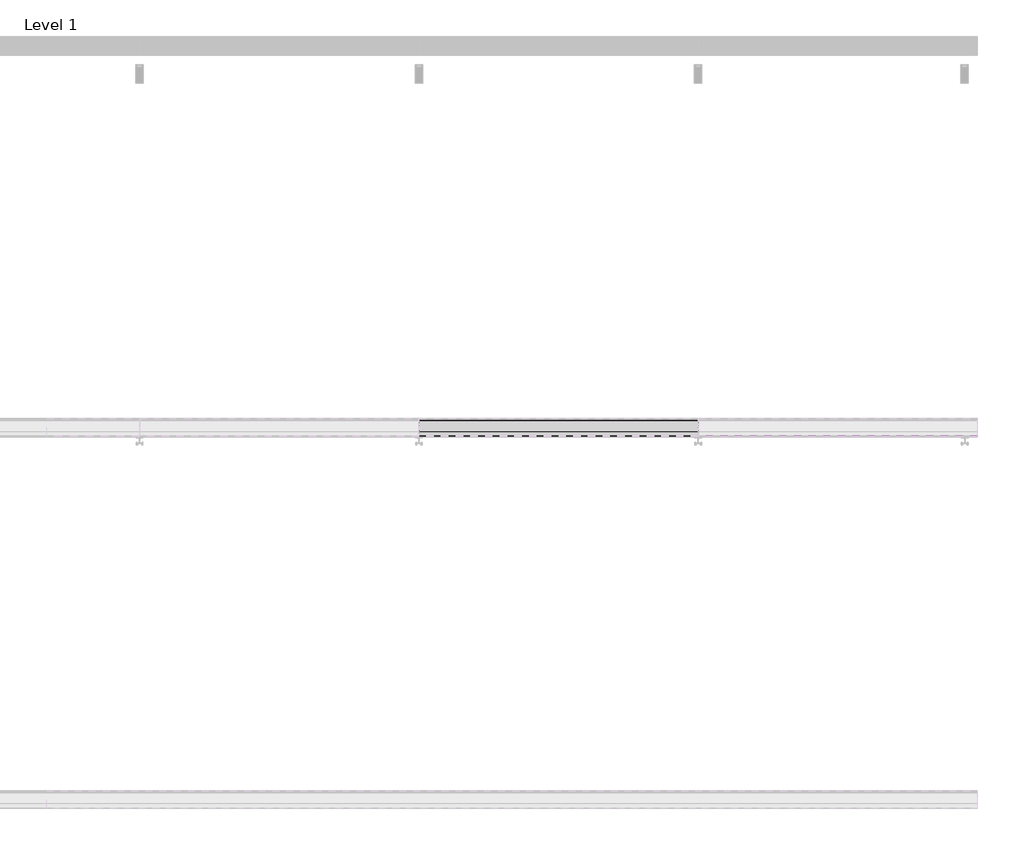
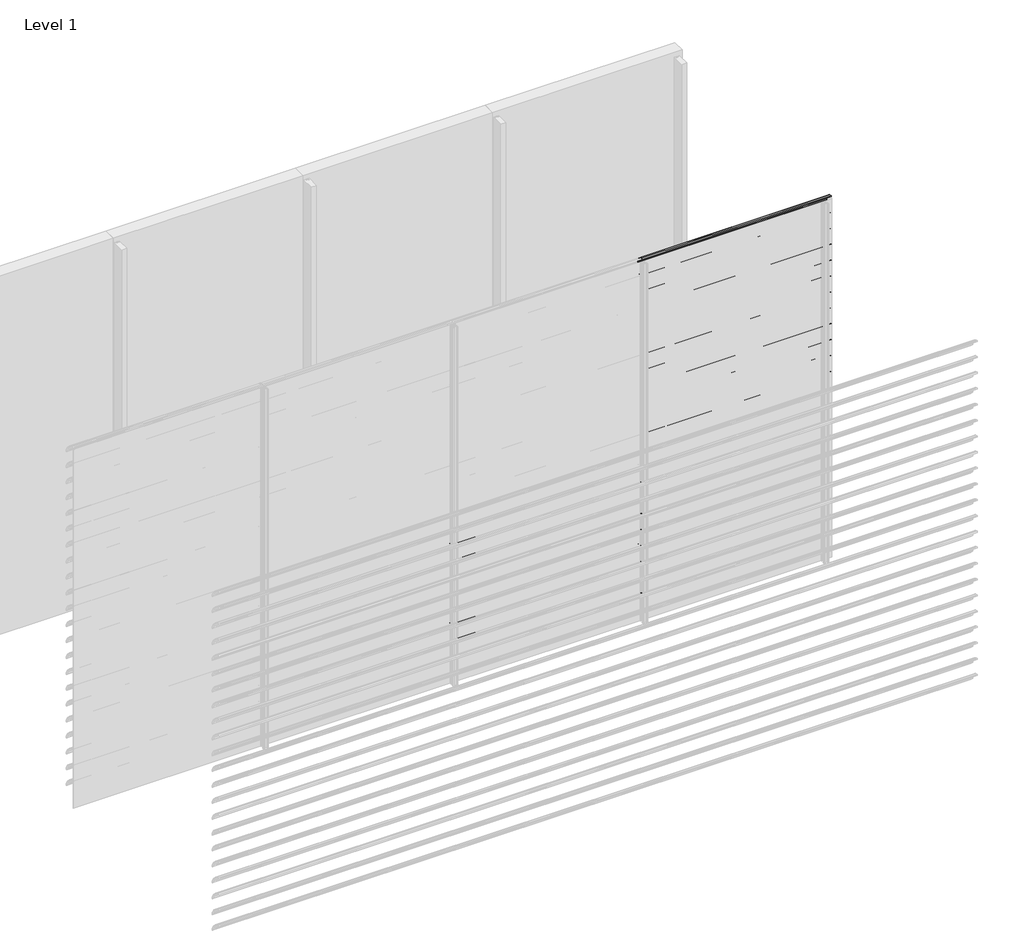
# One storey, part 18 of 57: 20 proxies.
"""IFC4 building model written with IfcOpenShell, lengths in millimetres."""

from ifc_helpers import new_model, si_unit, point, frame, frame_2d, origin, place, context, project, spatial, polyline, circle_curve, trimmed, segment, composite_curve, outline, extrude, element, save

model = new_model("IFC4")

# Units and contexts
model_context = context("Model", 3, world=origin())
ifc_project = project(units=[si_unit("LENGTHUNIT", "METRE", prefix="MILLI")], contexts=[model_context])

# Site, building, storey
site = spatial("IfcSite", under=ifc_project)
building = spatial("IfcBuilding", under=site)
storey = spatial("IfcBuildingStorey", under=building, Name="Level 1", Elevation=0.0)

# Proxies
placement = place(None, origin())
element("IfcBuildingElementProxy", 1, Name="Wall Sweeps", at=placement, inside=storey, context=model_context, shape_type="SweptSolid", body=[
    extrude(outline(composite_curve([segment(trimmed(circle_curve(frame_2d((-41993.7822526, 1154.4913792)), 4.2177474), [point((-41989.6985606, 1155.5462976))], [point((-41993.7822526, 1158.7091266))], False, "CARTESIAN"), True, "CONTINUOUS"), segment(trimmed(circle_curve(frame_2d((-42018.7150834, 1056.2536312)), 105.4456002), [point((-41993.7822526, 1158.7091266))], [point((-41971.7914298, 1150.6832099))], False, "CARTESIAN"), True, "CONTINUOUS"), segment(trimmed(circle_curve(frame_2d((-42061.7199745, 1002.0352476)), 173.7335887), [point((-41971.7914298, 1150.6832099))], [point((-41913.0720121, 1091.9637922))], False, "CARTESIAN"), True, "CONTINUOUS"), segment(trimmed(circle_curve(frame_2d((-42004.9297178, 1040.1860314)), 105.4456002), [point((-41913.0720121, 1091.9637922))], [point((-41903.6249616, 1069.4455765))], False, "CARTESIAN"), True, "CONTINUOUS"), segment(trimmed(circle_curve(frame_2d((-41907.809737, 1068.3307305)), 4.3307305), [point((-41903.6249616, 1069.4455765))], [point((-41909.0769196, 1064.189538))], False, "CARTESIAN"), True, "CONTINUOUS"), segment(polyline([(-41909.0769196, 1064.189538), (-41934.7401984, 1088.9722783)]), True, "CONTINUOUS"), segment(trimmed(circle_curve(frame_2d((-41931.3879574, 1091.2977626)), 4.079877), [point((-41934.7401984, 1088.9722783))], [point((-41930.7310597, 1095.3244091))], False, "CARTESIAN"), True, "CONTINUOUS"), segment(trimmed(circle_curve(frame_2d((-42014.6665585, 1073.2544323)), 86.7885467), [point((-41930.7310597, 1095.3244091))], [point((-41942.3028351, 1121.1683485))], True, "CARTESIAN"), True, "CONTINUOUS"), segment(polyline([(-41942.3028351, 1121.1683485), (-41940.7230099, 1123.9046861)]), True, "CONTINUOUS"), segment(trimmed(circle_curve(frame_2d((-42061.7199745, 1002.0352476)), 171.7335887), [point((-41940.7230099, 1123.9046861))], [point((-41972.7555872, 1148.9289618))], True, "CARTESIAN"), True, "CONTINUOUS"), segment(trimmed(circle_curve(frame_2d((-42018.7150834, 1056.2536312)), 103.4456002), [point((-41972.7555872, 1148.9289618))], [point((-41989.6985606, 1155.5462976))], True, "CARTESIAN"), True, "CONTINUOUS")], self_intersect=False)), frame((3000.0, 0.0, 0.0), z_axis=(1.0, 0.0, 0.0), x_axis=(0.0, 1.0, 0.0)), (0.0, 0.0, 1.0), 1500.0),
])
element("IfcBuildingElementProxy", 2, Name="Wall Sweeps", at=placement, inside=storey, context=model_context, shape_type="SweptSolid", body=[
    extrude(outline(composite_curve([segment(trimmed(circle_curve(frame_2d((-41993.7822526, 1021.4913792)), 4.2177474), [point((-41989.6985606, 1022.5462976))], [point((-41993.7822526, 1025.7091266))], False, "CARTESIAN"), True, "CONTINUOUS"), segment(trimmed(circle_curve(frame_2d((-42018.7150834, 923.2536312)), 105.4456002), [point((-41993.7822526, 1025.7091266))], [point((-41971.7914298, 1017.6832099))], False, "CARTESIAN"), True, "CONTINUOUS"), segment(trimmed(circle_curve(frame_2d((-42061.7199745, 869.0352476)), 173.7335887), [point((-41971.7914298, 1017.6832099))], [point((-41913.0720121, 958.9637922))], False, "CARTESIAN"), True, "CONTINUOUS"), segment(trimmed(circle_curve(frame_2d((-42004.9297178, 907.1860314)), 105.4456002), [point((-41913.0720121, 958.9637922))], [point((-41903.6249616, 936.4455765))], False, "CARTESIAN"), True, "CONTINUOUS"), segment(trimmed(circle_curve(frame_2d((-41907.809737, 935.3307305)), 4.3307305), [point((-41903.6249616, 936.4455765))], [point((-41909.0769196, 931.189538))], False, "CARTESIAN"), True, "CONTINUOUS"), segment(polyline([(-41909.0769196, 931.189538), (-41934.7401984, 955.9722783)]), True, "CONTINUOUS"), segment(trimmed(circle_curve(frame_2d((-41931.3879574, 958.2977626)), 4.079877), [point((-41934.7401984, 955.9722783))], [point((-41930.7310597, 962.3244091))], False, "CARTESIAN"), True, "CONTINUOUS"), segment(trimmed(circle_curve(frame_2d((-42014.6665585, 940.2544323)), 86.7885467), [point((-41930.7310597, 962.3244091))], [point((-41942.3028351, 988.1683485))], True, "CARTESIAN"), True, "CONTINUOUS"), segment(polyline([(-41942.3028351, 988.1683485), (-41940.7230099, 990.9046861)]), True, "CONTINUOUS"), segment(trimmed(circle_curve(frame_2d((-42061.7199745, 869.0352476)), 171.7335887), [point((-41940.7230099, 990.9046861))], [point((-41972.7555872, 1015.9289618))], True, "CARTESIAN"), True, "CONTINUOUS"), segment(trimmed(circle_curve(frame_2d((-42018.7150834, 923.2536312)), 103.4456002), [point((-41972.7555872, 1015.9289618))], [point((-41989.6985606, 1022.5462976))], True, "CARTESIAN"), True, "CONTINUOUS")], self_intersect=False)), frame((3000.0, 0.0, 0.0), z_axis=(1.0, 0.0, 0.0), x_axis=(0.0, 1.0, 0.0)), (0.0, 0.0, 1.0), 1500.0),
])
element("IfcBuildingElementProxy", 3, Name="Wall Sweeps", at=placement, inside=storey, context=model_context, shape_type="SweptSolid", body=[
    extrude(outline(composite_curve([segment(trimmed(circle_curve(frame_2d((-41993.7822526, 888.4913792)), 4.2177474), [point((-41989.6985606, 889.5462976))], [point((-41993.7822526, 892.7091266))], False, "CARTESIAN"), True, "CONTINUOUS"), segment(trimmed(circle_curve(frame_2d((-42018.7150834, 790.2536312)), 105.4456002), [point((-41993.7822526, 892.7091266))], [point((-41971.7914298, 884.6832099))], False, "CARTESIAN"), True, "CONTINUOUS"), segment(trimmed(circle_curve(frame_2d((-42061.7199745, 736.0352476)), 173.7335887), [point((-41971.7914298, 884.6832099))], [point((-41913.0720121, 825.9637922))], False, "CARTESIAN"), True, "CONTINUOUS"), segment(trimmed(circle_curve(frame_2d((-42004.9297178, 774.1860314)), 105.4456002), [point((-41913.0720121, 825.9637922))], [point((-41903.6249616, 803.4455765))], False, "CARTESIAN"), True, "CONTINUOUS"), segment(trimmed(circle_curve(frame_2d((-41907.809737, 802.3307305)), 4.3307305), [point((-41903.6249616, 803.4455765))], [point((-41909.0769196, 798.189538))], False, "CARTESIAN"), True, "CONTINUOUS"), segment(polyline([(-41909.0769196, 798.189538), (-41934.7401984, 822.9722783)]), True, "CONTINUOUS"), segment(trimmed(circle_curve(frame_2d((-41931.3879574, 825.2977626)), 4.079877), [point((-41934.7401984, 822.9722783))], [point((-41930.7310597, 829.3244091))], False, "CARTESIAN"), True, "CONTINUOUS"), segment(trimmed(circle_curve(frame_2d((-42014.6665585, 807.2544323)), 86.7885467), [point((-41930.7310597, 829.3244091))], [point((-41942.3028351, 855.1683485))], True, "CARTESIAN"), True, "CONTINUOUS"), segment(polyline([(-41942.3028351, 855.1683485), (-41940.7230099, 857.9046861)]), True, "CONTINUOUS"), segment(trimmed(circle_curve(frame_2d((-42061.7199745, 736.0352476)), 171.7335887), [point((-41940.7230099, 857.9046861))], [point((-41972.7555872, 882.9289618))], True, "CARTESIAN"), True, "CONTINUOUS"), segment(trimmed(circle_curve(frame_2d((-42018.7150834, 790.2536312)), 103.4456002), [point((-41972.7555872, 882.9289618))], [point((-41989.6985606, 889.5462976))], True, "CARTESIAN"), True, "CONTINUOUS")], self_intersect=False)), frame((3000.0, 0.0, 0.0), z_axis=(1.0, 0.0, 0.0), x_axis=(0.0, 1.0, 0.0)), (0.0, 0.0, 1.0), 1500.0),
])
element("IfcBuildingElementProxy", 4, Name="Wall Sweeps", at=placement, inside=storey, context=model_context, shape_type="SweptSolid", body=[
    extrude(outline(composite_curve([segment(trimmed(circle_curve(frame_2d((-41993.7822526, 755.4913792)), 4.2177474), [point((-41989.6985606, 756.5462976))], [point((-41993.7822526, 759.7091266))], False, "CARTESIAN"), True, "CONTINUOUS"), segment(trimmed(circle_curve(frame_2d((-42018.7150834, 657.2536312)), 105.4456002), [point((-41993.7822526, 759.7091266))], [point((-41971.7914298, 751.6832099))], False, "CARTESIAN"), True, "CONTINUOUS"), segment(trimmed(circle_curve(frame_2d((-42061.7199745, 603.0352476)), 173.7335887), [point((-41971.7914298, 751.6832099))], [point((-41913.0720121, 692.9637922))], False, "CARTESIAN"), True, "CONTINUOUS"), segment(trimmed(circle_curve(frame_2d((-42004.9297178, 641.1860314)), 105.4456002), [point((-41913.0720121, 692.9637922))], [point((-41903.6249616, 670.4455765))], False, "CARTESIAN"), True, "CONTINUOUS"), segment(trimmed(circle_curve(frame_2d((-41907.809737, 669.3307305)), 4.3307305), [point((-41903.6249616, 670.4455765))], [point((-41909.0769196, 665.189538))], False, "CARTESIAN"), True, "CONTINUOUS"), segment(polyline([(-41909.0769196, 665.189538), (-41934.7401984, 689.9722783)]), True, "CONTINUOUS"), segment(trimmed(circle_curve(frame_2d((-41931.3879574, 692.2977626)), 4.079877), [point((-41934.7401984, 689.9722783))], [point((-41930.7310597, 696.3244091))], False, "CARTESIAN"), True, "CONTINUOUS"), segment(trimmed(circle_curve(frame_2d((-42014.6665585, 674.2544323)), 86.7885467), [point((-41930.7310597, 696.3244091))], [point((-41942.3028351, 722.1683485))], True, "CARTESIAN"), True, "CONTINUOUS"), segment(polyline([(-41942.3028351, 722.1683485), (-41940.7230099, 724.9046861)]), True, "CONTINUOUS"), segment(trimmed(circle_curve(frame_2d((-42061.7199745, 603.0352476)), 171.7335887), [point((-41940.7230099, 724.9046861))], [point((-41972.7555872, 749.9289618))], True, "CARTESIAN"), True, "CONTINUOUS"), segment(trimmed(circle_curve(frame_2d((-42018.7150834, 657.2536312)), 103.4456002), [point((-41972.7555872, 749.9289618))], [point((-41989.6985606, 756.5462976))], True, "CARTESIAN"), True, "CONTINUOUS")], self_intersect=False)), frame((3000.0, 0.0, 0.0), z_axis=(1.0, 0.0, 0.0), x_axis=(0.0, 1.0, 0.0)), (0.0, 0.0, 1.0), 1500.0),
])
element("IfcBuildingElementProxy", 5, Name="Wall Sweeps", at=placement, inside=storey, context=model_context, shape_type="SweptSolid", body=[
    extrude(outline(composite_curve([segment(trimmed(circle_curve(frame_2d((-41993.7822526, 622.4913792)), 4.2177474), [point((-41989.6985606, 623.5462976))], [point((-41993.7822526, 626.7091266))], False, "CARTESIAN"), True, "CONTINUOUS"), segment(trimmed(circle_curve(frame_2d((-42018.7150834, 524.2536312)), 105.4456002), [point((-41993.7822526, 626.7091266))], [point((-41971.7914298, 618.6832099))], False, "CARTESIAN"), True, "CONTINUOUS"), segment(trimmed(circle_curve(frame_2d((-42061.7199745, 470.0352476)), 173.7335887), [point((-41971.7914298, 618.6832099))], [point((-41913.0720121, 559.9637922))], False, "CARTESIAN"), True, "CONTINUOUS"), segment(trimmed(circle_curve(frame_2d((-42004.9297178, 508.1860314)), 105.4456002), [point((-41913.0720121, 559.9637922))], [point((-41903.6249616, 537.4455765))], False, "CARTESIAN"), True, "CONTINUOUS"), segment(trimmed(circle_curve(frame_2d((-41907.809737, 536.3307305)), 4.3307305), [point((-41903.6249616, 537.4455765))], [point((-41909.0769196, 532.189538))], False, "CARTESIAN"), True, "CONTINUOUS"), segment(polyline([(-41909.0769196, 532.189538), (-41934.7401984, 556.9722783)]), True, "CONTINUOUS"), segment(trimmed(circle_curve(frame_2d((-41931.3879574, 559.2977626)), 4.079877), [point((-41934.7401984, 556.9722783))], [point((-41930.7310597, 563.3244091))], False, "CARTESIAN"), True, "CONTINUOUS"), segment(trimmed(circle_curve(frame_2d((-42014.6665585, 541.2544323)), 86.7885467), [point((-41930.7310597, 563.3244091))], [point((-41942.3028351, 589.1683485))], True, "CARTESIAN"), True, "CONTINUOUS"), segment(polyline([(-41942.3028351, 589.1683485), (-41940.7230099, 591.9046861)]), True, "CONTINUOUS"), segment(trimmed(circle_curve(frame_2d((-42061.7199745, 470.0352476)), 171.7335887), [point((-41940.7230099, 591.9046861))], [point((-41972.7555872, 616.9289618))], True, "CARTESIAN"), True, "CONTINUOUS"), segment(trimmed(circle_curve(frame_2d((-42018.7150834, 524.2536312)), 103.4456002), [point((-41972.7555872, 616.9289618))], [point((-41989.6985606, 623.5462976))], True, "CARTESIAN"), True, "CONTINUOUS")], self_intersect=False)), frame((3000.0, 0.0, 0.0), z_axis=(1.0, 0.0, 0.0), x_axis=(0.0, 1.0, 0.0)), (0.0, 0.0, 1.0), 1500.0),
])
element("IfcBuildingElementProxy", 6, Name="Wall Sweeps", at=placement, inside=storey, context=model_context, shape_type="SweptSolid", body=[
    extrude(outline(composite_curve([segment(trimmed(circle_curve(frame_2d((-41993.7822526, 489.4913792)), 4.2177474), [point((-41989.6985606, 490.5462976))], [point((-41993.7822526, 493.7091266))], False, "CARTESIAN"), True, "CONTINUOUS"), segment(trimmed(circle_curve(frame_2d((-42018.7150834, 391.2536312)), 105.4456002), [point((-41993.7822526, 493.7091266))], [point((-41971.7914298, 485.6832099))], False, "CARTESIAN"), True, "CONTINUOUS"), segment(trimmed(circle_curve(frame_2d((-42061.7199745, 337.0352476)), 173.7335887), [point((-41971.7914298, 485.6832099))], [point((-41913.0720121, 426.9637922))], False, "CARTESIAN"), True, "CONTINUOUS"), segment(trimmed(circle_curve(frame_2d((-42004.9297178, 375.1860314)), 105.4456002), [point((-41913.0720121, 426.9637922))], [point((-41903.6249616, 404.4455765))], False, "CARTESIAN"), True, "CONTINUOUS"), segment(trimmed(circle_curve(frame_2d((-41907.809737, 403.3307305)), 4.3307305), [point((-41903.6249616, 404.4455765))], [point((-41909.0769196, 399.189538))], False, "CARTESIAN"), True, "CONTINUOUS"), segment(polyline([(-41909.0769196, 399.189538), (-41934.7401984, 423.9722783)]), True, "CONTINUOUS"), segment(trimmed(circle_curve(frame_2d((-41931.3879574, 426.2977626)), 4.079877), [point((-41934.7401984, 423.9722783))], [point((-41930.7310597, 430.3244091))], False, "CARTESIAN"), True, "CONTINUOUS"), segment(trimmed(circle_curve(frame_2d((-42014.6665585, 408.2544323)), 86.7885467), [point((-41930.7310597, 430.3244091))], [point((-41942.3028351, 456.1683485))], True, "CARTESIAN"), True, "CONTINUOUS"), segment(polyline([(-41942.3028351, 456.1683485), (-41940.7230099, 458.9046861)]), True, "CONTINUOUS"), segment(trimmed(circle_curve(frame_2d((-42061.7199745, 337.0352476)), 171.7335887), [point((-41940.7230099, 458.9046861))], [point((-41972.7555872, 483.9289618))], True, "CARTESIAN"), True, "CONTINUOUS"), segment(trimmed(circle_curve(frame_2d((-42018.7150834, 391.2536312)), 103.4456002), [point((-41972.7555872, 483.9289618))], [point((-41989.6985606, 490.5462976))], True, "CARTESIAN"), True, "CONTINUOUS")], self_intersect=False)), frame((3000.0, 0.0, 0.0), z_axis=(1.0, 0.0, 0.0), x_axis=(0.0, 1.0, 0.0)), (0.0, 0.0, 1.0), 1500.0),
])
element("IfcBuildingElementProxy", 7, Name="Wall Sweeps", at=placement, inside=storey, context=model_context, shape_type="SweptSolid", body=[
    extrude(outline(composite_curve([segment(trimmed(circle_curve(frame_2d((-41993.7822526, 356.4913792)), 4.2177474), [point((-41989.6985606, 357.5462976))], [point((-41993.7822526, 360.7091266))], False, "CARTESIAN"), True, "CONTINUOUS"), segment(trimmed(circle_curve(frame_2d((-42018.7150834, 258.2536312)), 105.4456002), [point((-41993.7822526, 360.7091266))], [point((-41971.7914298, 352.6832099))], False, "CARTESIAN"), True, "CONTINUOUS"), segment(trimmed(circle_curve(frame_2d((-42061.7199745, 204.0352476)), 173.7335887), [point((-41971.7914298, 352.6832099))], [point((-41913.0720121, 293.9637922))], False, "CARTESIAN"), True, "CONTINUOUS"), segment(trimmed(circle_curve(frame_2d((-42004.9297178, 242.1860314)), 105.4456002), [point((-41913.0720121, 293.9637922))], [point((-41903.6249616, 271.4455765))], False, "CARTESIAN"), True, "CONTINUOUS"), segment(trimmed(circle_curve(frame_2d((-41907.809737, 270.3307305)), 4.3307305), [point((-41903.6249616, 271.4455765))], [point((-41909.0769196, 266.189538))], False, "CARTESIAN"), True, "CONTINUOUS"), segment(polyline([(-41909.0769196, 266.189538), (-41934.7401984, 290.9722783)]), True, "CONTINUOUS"), segment(trimmed(circle_curve(frame_2d((-41931.3879574, 293.2977626)), 4.079877), [point((-41934.7401984, 290.9722783))], [point((-41930.7310597, 297.3244091))], False, "CARTESIAN"), True, "CONTINUOUS"), segment(trimmed(circle_curve(frame_2d((-42014.6665585, 275.2544323)), 86.7885467), [point((-41930.7310597, 297.3244091))], [point((-41942.3028351, 323.1683485))], True, "CARTESIAN"), True, "CONTINUOUS"), segment(polyline([(-41942.3028351, 323.1683485), (-41940.7230099, 325.9046861)]), True, "CONTINUOUS"), segment(trimmed(circle_curve(frame_2d((-42061.7199745, 204.0352476)), 171.7335887), [point((-41940.7230099, 325.9046861))], [point((-41972.7555872, 350.9289618))], True, "CARTESIAN"), True, "CONTINUOUS"), segment(trimmed(circle_curve(frame_2d((-42018.7150834, 258.2536312)), 103.4456002), [point((-41972.7555872, 350.9289618))], [point((-41989.6985606, 357.5462976))], True, "CARTESIAN"), True, "CONTINUOUS")], self_intersect=False)), frame((3000.0, 0.0, 0.0), z_axis=(1.0, 0.0, 0.0), x_axis=(0.0, 1.0, 0.0)), (0.0, 0.0, 1.0), 1500.0),
])
element("IfcBuildingElementProxy", 8, Name="Wall Sweeps", at=placement, inside=storey, context=model_context, shape_type="SweptSolid", body=[
    extrude(outline(composite_curve([segment(trimmed(circle_curve(frame_2d((-41993.7822526, 223.4913792)), 4.2177474), [point((-41989.6985606, 224.5462976))], [point((-41993.7822526, 227.7091266))], False, "CARTESIAN"), True, "CONTINUOUS"), segment(trimmed(circle_curve(frame_2d((-42018.7150834, 125.2536312)), 105.4456002), [point((-41993.7822526, 227.7091266))], [point((-41971.7914298, 219.6832099))], False, "CARTESIAN"), True, "CONTINUOUS"), segment(trimmed(circle_curve(frame_2d((-42061.7199745, 71.0352476)), 173.7335887), [point((-41971.7914298, 219.6832099))], [point((-41913.0720121, 160.9637922))], False, "CARTESIAN"), True, "CONTINUOUS"), segment(trimmed(circle_curve(frame_2d((-42004.9297178, 109.1860314)), 105.4456002), [point((-41913.0720121, 160.9637922))], [point((-41903.6249616, 138.4455765))], False, "CARTESIAN"), True, "CONTINUOUS"), segment(trimmed(circle_curve(frame_2d((-41907.809737, 137.3307305)), 4.3307305), [point((-41903.6249616, 138.4455765))], [point((-41909.0769196, 133.189538))], False, "CARTESIAN"), True, "CONTINUOUS"), segment(polyline([(-41909.0769196, 133.189538), (-41934.7401984, 157.9722783)]), True, "CONTINUOUS"), segment(trimmed(circle_curve(frame_2d((-41931.3879574, 160.2977626)), 4.079877), [point((-41934.7401984, 157.9722783))], [point((-41930.7310597, 164.3244091))], False, "CARTESIAN"), True, "CONTINUOUS"), segment(trimmed(circle_curve(frame_2d((-42014.6665585, 142.2544323)), 86.7885467), [point((-41930.7310597, 164.3244091))], [point((-41942.3028351, 190.1683485))], True, "CARTESIAN"), True, "CONTINUOUS"), segment(polyline([(-41942.3028351, 190.1683485), (-41940.7230099, 192.9046861)]), True, "CONTINUOUS"), segment(trimmed(circle_curve(frame_2d((-42061.7199745, 71.0352476)), 171.7335887), [point((-41940.7230099, 192.9046861))], [point((-41972.7555872, 217.9289618))], True, "CARTESIAN"), True, "CONTINUOUS"), segment(trimmed(circle_curve(frame_2d((-42018.7150834, 125.2536312)), 103.4456002), [point((-41972.7555872, 217.9289618))], [point((-41989.6985606, 224.5462976))], True, "CARTESIAN"), True, "CONTINUOUS")], self_intersect=False)), frame((3000.0, 0.0, 0.0), z_axis=(1.0, 0.0, 0.0), x_axis=(0.0, 1.0, 0.0)), (0.0, 0.0, 1.0), 1500.0),
])
element("IfcBuildingElementProxy", 9, Name="Wall Sweeps", at=placement, inside=storey, context=model_context, shape_type="SweptSolid", body=[
    extrude(outline(composite_curve([segment(trimmed(circle_curve(frame_2d((-41993.7822526, 3016.4913792)), 4.2177474), [point((-41989.6985606, 3017.5462976))], [point((-41993.7822526, 3020.7091266))], False, "CARTESIAN"), True, "CONTINUOUS"), segment(trimmed(circle_curve(frame_2d((-42018.7150834, 2918.2536312)), 105.4456002), [point((-41993.7822526, 3020.7091266))], [point((-41971.7914298, 3012.6832099))], False, "CARTESIAN"), True, "CONTINUOUS"), segment(trimmed(circle_curve(frame_2d((-42061.7199745, 2864.0352476)), 173.7335887), [point((-41971.7914298, 3012.6832099))], [point((-41913.0720121, 2953.9637922))], False, "CARTESIAN"), True, "CONTINUOUS"), segment(trimmed(circle_curve(frame_2d((-42004.9297178, 2902.1860314)), 105.4456002), [point((-41913.0720121, 2953.9637922))], [point((-41903.6249616, 2931.4455765))], False, "CARTESIAN"), True, "CONTINUOUS"), segment(trimmed(circle_curve(frame_2d((-41907.809737, 2930.3307305)), 4.3307305), [point((-41903.6249616, 2931.4455765))], [point((-41909.0769196, 2926.189538))], False, "CARTESIAN"), True, "CONTINUOUS"), segment(polyline([(-41909.0769196, 2926.189538), (-41934.7401984, 2950.9722783)]), True, "CONTINUOUS"), segment(trimmed(circle_curve(frame_2d((-41931.3879574, 2953.2977626)), 4.079877), [point((-41934.7401984, 2950.9722783))], [point((-41930.7310597, 2957.3244091))], False, "CARTESIAN"), True, "CONTINUOUS"), segment(trimmed(circle_curve(frame_2d((-42014.6665585, 2935.2544323)), 86.7885467), [point((-41930.7310597, 2957.3244091))], [point((-41942.3028351, 2983.1683485))], True, "CARTESIAN"), True, "CONTINUOUS"), segment(polyline([(-41942.3028351, 2983.1683485), (-41940.7230099, 2985.9046861)]), True, "CONTINUOUS"), segment(trimmed(circle_curve(frame_2d((-42061.7199745, 2864.0352476)), 171.7335887), [point((-41940.7230099, 2985.9046861))], [point((-41972.7555872, 3010.9289618))], True, "CARTESIAN"), True, "CONTINUOUS"), segment(trimmed(circle_curve(frame_2d((-42018.7150834, 2918.2536312)), 103.4456002), [point((-41972.7555872, 3010.9289618))], [point((-41989.6985606, 3017.5462976))], True, "CARTESIAN"), True, "CONTINUOUS")], self_intersect=False)), frame((4500.0, 0.0, 0.0), z_axis=(1.0, 0.0, 0.0), x_axis=(0.0, 1.0, 0.0)), (0.0, 0.0, 1.0), 1500.0),
])
element("IfcBuildingElementProxy", 10, Name="Wall Sweeps", at=placement, inside=storey, context=model_context, shape_type="SweptSolid", body=[
    extrude(outline(composite_curve([segment(trimmed(circle_curve(frame_2d((-41993.7822526, 2883.4913792)), 4.2177474), [point((-41989.6985606, 2884.5462976))], [point((-41993.7822526, 2887.7091266))], False, "CARTESIAN"), True, "CONTINUOUS"), segment(trimmed(circle_curve(frame_2d((-42018.7150834, 2785.2536312)), 105.4456002), [point((-41993.7822526, 2887.7091266))], [point((-41971.7914298, 2879.6832099))], False, "CARTESIAN"), True, "CONTINUOUS"), segment(trimmed(circle_curve(frame_2d((-42061.7199745, 2731.0352476)), 173.7335887), [point((-41971.7914298, 2879.6832099))], [point((-41913.0720121, 2820.9637922))], False, "CARTESIAN"), True, "CONTINUOUS"), segment(trimmed(circle_curve(frame_2d((-42004.9297178, 2769.1860314)), 105.4456002), [point((-41913.0720121, 2820.9637922))], [point((-41903.6249616, 2798.4455765))], False, "CARTESIAN"), True, "CONTINUOUS"), segment(trimmed(circle_curve(frame_2d((-41907.809737, 2797.3307305)), 4.3307305), [point((-41903.6249616, 2798.4455765))], [point((-41909.0769196, 2793.189538))], False, "CARTESIAN"), True, "CONTINUOUS"), segment(polyline([(-41909.0769196, 2793.189538), (-41934.7401984, 2817.9722783)]), True, "CONTINUOUS"), segment(trimmed(circle_curve(frame_2d((-41931.3879574, 2820.2977626)), 4.079877), [point((-41934.7401984, 2817.9722783))], [point((-41930.7310597, 2824.3244091))], False, "CARTESIAN"), True, "CONTINUOUS"), segment(trimmed(circle_curve(frame_2d((-42014.6665585, 2802.2544323)), 86.7885467), [point((-41930.7310597, 2824.3244091))], [point((-41942.3028351, 2850.1683485))], True, "CARTESIAN"), True, "CONTINUOUS"), segment(polyline([(-41942.3028351, 2850.1683485), (-41940.7230099, 2852.9046861)]), True, "CONTINUOUS"), segment(trimmed(circle_curve(frame_2d((-42061.7199745, 2731.0352476)), 171.7335887), [point((-41940.7230099, 2852.9046861))], [point((-41972.7555872, 2877.9289618))], True, "CARTESIAN"), True, "CONTINUOUS"), segment(trimmed(circle_curve(frame_2d((-42018.7150834, 2785.2536312)), 103.4456002), [point((-41972.7555872, 2877.9289618))], [point((-41989.6985606, 2884.5462976))], True, "CARTESIAN"), True, "CONTINUOUS")], self_intersect=False)), frame((4500.0, 0.0, 0.0), z_axis=(1.0, 0.0, 0.0), x_axis=(0.0, 1.0, 0.0)), (0.0, 0.0, 1.0), 1500.0),
])
element("IfcBuildingElementProxy", 11, Name="Wall Sweeps", at=placement, inside=storey, context=model_context, shape_type="SweptSolid", body=[
    extrude(outline(composite_curve([segment(trimmed(circle_curve(frame_2d((-41993.7822526, 2750.4913792)), 4.2177474), [point((-41989.6985606, 2751.5462976))], [point((-41993.7822526, 2754.7091266))], False, "CARTESIAN"), True, "CONTINUOUS"), segment(trimmed(circle_curve(frame_2d((-42018.7150834, 2652.2536312)), 105.4456002), [point((-41993.7822526, 2754.7091266))], [point((-41971.7914298, 2746.6832099))], False, "CARTESIAN"), True, "CONTINUOUS"), segment(trimmed(circle_curve(frame_2d((-42061.7199745, 2598.0352476)), 173.7335887), [point((-41971.7914298, 2746.6832099))], [point((-41913.0720121, 2687.9637922))], False, "CARTESIAN"), True, "CONTINUOUS"), segment(trimmed(circle_curve(frame_2d((-42004.9297178, 2636.1860314)), 105.4456002), [point((-41913.0720121, 2687.9637922))], [point((-41903.6249616, 2665.4455765))], False, "CARTESIAN"), True, "CONTINUOUS"), segment(trimmed(circle_curve(frame_2d((-41907.809737, 2664.3307305)), 4.3307305), [point((-41903.6249616, 2665.4455765))], [point((-41909.0769196, 2660.189538))], False, "CARTESIAN"), True, "CONTINUOUS"), segment(polyline([(-41909.0769196, 2660.189538), (-41934.7401984, 2684.9722783)]), True, "CONTINUOUS"), segment(trimmed(circle_curve(frame_2d((-41931.3879574, 2687.2977626)), 4.079877), [point((-41934.7401984, 2684.9722783))], [point((-41930.7310597, 2691.3244091))], False, "CARTESIAN"), True, "CONTINUOUS"), segment(trimmed(circle_curve(frame_2d((-42014.6665585, 2669.2544323)), 86.7885467), [point((-41930.7310597, 2691.3244091))], [point((-41942.3028351, 2717.1683485))], True, "CARTESIAN"), True, "CONTINUOUS"), segment(polyline([(-41942.3028351, 2717.1683485), (-41940.7230099, 2719.9046861)]), True, "CONTINUOUS"), segment(trimmed(circle_curve(frame_2d((-42061.7199745, 2598.0352476)), 171.7335887), [point((-41940.7230099, 2719.9046861))], [point((-41972.7555872, 2744.9289618))], True, "CARTESIAN"), True, "CONTINUOUS"), segment(trimmed(circle_curve(frame_2d((-42018.7150834, 2652.2536312)), 103.4456002), [point((-41972.7555872, 2744.9289618))], [point((-41989.6985606, 2751.5462976))], True, "CARTESIAN"), True, "CONTINUOUS")], self_intersect=False)), frame((4500.0, 0.0, 0.0), z_axis=(1.0, 0.0, 0.0), x_axis=(0.0, 1.0, 0.0)), (0.0, 0.0, 1.0), 1500.0),
])
element("IfcBuildingElementProxy", 12, Name="Wall Sweeps", at=placement, inside=storey, context=model_context, shape_type="SweptSolid", body=[
    extrude(outline(composite_curve([segment(trimmed(circle_curve(frame_2d((-41993.7822526, 2617.4913792)), 4.2177474), [point((-41989.6985606, 2618.5462976))], [point((-41993.7822526, 2621.7091266))], False, "CARTESIAN"), True, "CONTINUOUS"), segment(trimmed(circle_curve(frame_2d((-42018.7150834, 2519.2536312)), 105.4456002), [point((-41993.7822526, 2621.7091266))], [point((-41971.7914298, 2613.6832099))], False, "CARTESIAN"), True, "CONTINUOUS"), segment(trimmed(circle_curve(frame_2d((-42061.7199745, 2465.0352476)), 173.7335887), [point((-41971.7914298, 2613.6832099))], [point((-41913.0720121, 2554.9637922))], False, "CARTESIAN"), True, "CONTINUOUS"), segment(trimmed(circle_curve(frame_2d((-42004.9297178, 2503.1860314)), 105.4456002), [point((-41913.0720121, 2554.9637922))], [point((-41903.6249616, 2532.4455765))], False, "CARTESIAN"), True, "CONTINUOUS"), segment(trimmed(circle_curve(frame_2d((-41907.809737, 2531.3307305)), 4.3307305), [point((-41903.6249616, 2532.4455765))], [point((-41909.0769196, 2527.189538))], False, "CARTESIAN"), True, "CONTINUOUS"), segment(polyline([(-41909.0769196, 2527.189538), (-41934.7401984, 2551.9722783)]), True, "CONTINUOUS"), segment(trimmed(circle_curve(frame_2d((-41931.3879574, 2554.2977626)), 4.079877), [point((-41934.7401984, 2551.9722783))], [point((-41930.7310597, 2558.3244091))], False, "CARTESIAN"), True, "CONTINUOUS"), segment(trimmed(circle_curve(frame_2d((-42014.6665585, 2536.2544323)), 86.7885467), [point((-41930.7310597, 2558.3244091))], [point((-41942.3028351, 2584.1683485))], True, "CARTESIAN"), True, "CONTINUOUS"), segment(polyline([(-41942.3028351, 2584.1683485), (-41940.7230099, 2586.9046861)]), True, "CONTINUOUS"), segment(trimmed(circle_curve(frame_2d((-42061.7199745, 2465.0352476)), 171.7335887), [point((-41940.7230099, 2586.9046861))], [point((-41972.7555872, 2611.9289618))], True, "CARTESIAN"), True, "CONTINUOUS"), segment(trimmed(circle_curve(frame_2d((-42018.7150834, 2519.2536312)), 103.4456002), [point((-41972.7555872, 2611.9289618))], [point((-41989.6985606, 2618.5462976))], True, "CARTESIAN"), True, "CONTINUOUS")], self_intersect=False)), frame((4500.0, 0.0, 0.0), z_axis=(1.0, 0.0, 0.0), x_axis=(0.0, 1.0, 0.0)), (0.0, 0.0, 1.0), 1500.0),
])
element("IfcBuildingElementProxy", 13, Name="Wall Sweeps", at=placement, inside=storey, context=model_context, shape_type="SweptSolid", body=[
    extrude(outline(composite_curve([segment(trimmed(circle_curve(frame_2d((-41993.7822526, 2484.4913792)), 4.2177474), [point((-41989.6985606, 2485.5462976))], [point((-41993.7822526, 2488.7091266))], False, "CARTESIAN"), True, "CONTINUOUS"), segment(trimmed(circle_curve(frame_2d((-42018.7150834, 2386.2536312)), 105.4456002), [point((-41993.7822526, 2488.7091266))], [point((-41971.7914298, 2480.6832099))], False, "CARTESIAN"), True, "CONTINUOUS"), segment(trimmed(circle_curve(frame_2d((-42061.7199745, 2332.0352476)), 173.7335887), [point((-41971.7914298, 2480.6832099))], [point((-41913.0720121, 2421.9637922))], False, "CARTESIAN"), True, "CONTINUOUS"), segment(trimmed(circle_curve(frame_2d((-42004.9297178, 2370.1860314)), 105.4456002), [point((-41913.0720121, 2421.9637922))], [point((-41903.6249616, 2399.4455765))], False, "CARTESIAN"), True, "CONTINUOUS"), segment(trimmed(circle_curve(frame_2d((-41907.809737, 2398.3307305)), 4.3307305), [point((-41903.6249616, 2399.4455765))], [point((-41909.0769196, 2394.189538))], False, "CARTESIAN"), True, "CONTINUOUS"), segment(polyline([(-41909.0769196, 2394.189538), (-41934.7401984, 2418.9722783)]), True, "CONTINUOUS"), segment(trimmed(circle_curve(frame_2d((-41931.3879574, 2421.2977626)), 4.079877), [point((-41934.7401984, 2418.9722783))], [point((-41930.7310597, 2425.3244091))], False, "CARTESIAN"), True, "CONTINUOUS"), segment(trimmed(circle_curve(frame_2d((-42014.6665585, 2403.2544323)), 86.7885467), [point((-41930.7310597, 2425.3244091))], [point((-41942.3028351, 2451.1683485))], True, "CARTESIAN"), True, "CONTINUOUS"), segment(polyline([(-41942.3028351, 2451.1683485), (-41940.7230099, 2453.9046861)]), True, "CONTINUOUS"), segment(trimmed(circle_curve(frame_2d((-42061.7199745, 2332.0352476)), 171.7335887), [point((-41940.7230099, 2453.9046861))], [point((-41972.7555872, 2478.9289618))], True, "CARTESIAN"), True, "CONTINUOUS"), segment(trimmed(circle_curve(frame_2d((-42018.7150834, 2386.2536312)), 103.4456002), [point((-41972.7555872, 2478.9289618))], [point((-41989.6985606, 2485.5462976))], True, "CARTESIAN"), True, "CONTINUOUS")], self_intersect=False)), frame((4500.0, 0.0, 0.0), z_axis=(1.0, 0.0, 0.0), x_axis=(0.0, 1.0, 0.0)), (0.0, 0.0, 1.0), 1500.0),
])
element("IfcBuildingElementProxy", 14, Name="Wall Sweeps", at=placement, inside=storey, context=model_context, shape_type="SweptSolid", body=[
    extrude(outline(composite_curve([segment(trimmed(circle_curve(frame_2d((-41993.7822526, 2351.4913792)), 4.2177474), [point((-41989.6985606, 2352.5462976))], [point((-41993.7822526, 2355.7091266))], False, "CARTESIAN"), True, "CONTINUOUS"), segment(trimmed(circle_curve(frame_2d((-42018.7150834, 2253.2536312)), 105.4456002), [point((-41993.7822526, 2355.7091266))], [point((-41971.7914298, 2347.6832099))], False, "CARTESIAN"), True, "CONTINUOUS"), segment(trimmed(circle_curve(frame_2d((-42061.7199745, 2199.0352476)), 173.7335887), [point((-41971.7914298, 2347.6832099))], [point((-41913.0720121, 2288.9637922))], False, "CARTESIAN"), True, "CONTINUOUS"), segment(trimmed(circle_curve(frame_2d((-42004.9297178, 2237.1860314)), 105.4456002), [point((-41913.0720121, 2288.9637922))], [point((-41903.6249616, 2266.4455765))], False, "CARTESIAN"), True, "CONTINUOUS"), segment(trimmed(circle_curve(frame_2d((-41907.809737, 2265.3307305)), 4.3307305), [point((-41903.6249616, 2266.4455765))], [point((-41909.0769196, 2261.189538))], False, "CARTESIAN"), True, "CONTINUOUS"), segment(polyline([(-41909.0769196, 2261.189538), (-41934.7401984, 2285.9722783)]), True, "CONTINUOUS"), segment(trimmed(circle_curve(frame_2d((-41931.3879574, 2288.2977626)), 4.079877), [point((-41934.7401984, 2285.9722783))], [point((-41930.7310597, 2292.3244091))], False, "CARTESIAN"), True, "CONTINUOUS"), segment(trimmed(circle_curve(frame_2d((-42014.6665585, 2270.2544323)), 86.7885467), [point((-41930.7310597, 2292.3244091))], [point((-41942.3028351, 2318.1683485))], True, "CARTESIAN"), True, "CONTINUOUS"), segment(polyline([(-41942.3028351, 2318.1683485), (-41940.7230099, 2320.9046861)]), True, "CONTINUOUS"), segment(trimmed(circle_curve(frame_2d((-42061.7199745, 2199.0352476)), 171.7335887), [point((-41940.7230099, 2320.9046861))], [point((-41972.7555872, 2345.9289618))], True, "CARTESIAN"), True, "CONTINUOUS"), segment(trimmed(circle_curve(frame_2d((-42018.7150834, 2253.2536312)), 103.4456002), [point((-41972.7555872, 2345.9289618))], [point((-41989.6985606, 2352.5462976))], True, "CARTESIAN"), True, "CONTINUOUS")], self_intersect=False)), frame((4500.0, 0.0, 0.0), z_axis=(1.0, 0.0, 0.0), x_axis=(0.0, 1.0, 0.0)), (0.0, 0.0, 1.0), 1500.0),
])
element("IfcBuildingElementProxy", 15, Name="Wall Sweeps", at=placement, inside=storey, context=model_context, shape_type="SweptSolid", body=[
    extrude(outline(composite_curve([segment(trimmed(circle_curve(frame_2d((-41993.7822526, 2218.4913792)), 4.2177474), [point((-41989.6985606, 2219.5462976))], [point((-41993.7822526, 2222.7091266))], False, "CARTESIAN"), True, "CONTINUOUS"), segment(trimmed(circle_curve(frame_2d((-42018.7150834, 2120.2536312)), 105.4456002), [point((-41993.7822526, 2222.7091266))], [point((-41971.7914298, 2214.6832099))], False, "CARTESIAN"), True, "CONTINUOUS"), segment(trimmed(circle_curve(frame_2d((-42061.7199745, 2066.0352476)), 173.7335887), [point((-41971.7914298, 2214.6832099))], [point((-41913.0720121, 2155.9637922))], False, "CARTESIAN"), True, "CONTINUOUS"), segment(trimmed(circle_curve(frame_2d((-42004.9297178, 2104.1860314)), 105.4456002), [point((-41913.0720121, 2155.9637922))], [point((-41903.6249616, 2133.4455765))], False, "CARTESIAN"), True, "CONTINUOUS"), segment(trimmed(circle_curve(frame_2d((-41907.809737, 2132.3307305)), 4.3307305), [point((-41903.6249616, 2133.4455765))], [point((-41909.0769196, 2128.189538))], False, "CARTESIAN"), True, "CONTINUOUS"), segment(polyline([(-41909.0769196, 2128.189538), (-41934.7401984, 2152.9722783)]), True, "CONTINUOUS"), segment(trimmed(circle_curve(frame_2d((-41931.3879574, 2155.2977626)), 4.079877), [point((-41934.7401984, 2152.9722783))], [point((-41930.7310597, 2159.3244091))], False, "CARTESIAN"), True, "CONTINUOUS"), segment(trimmed(circle_curve(frame_2d((-42014.6665585, 2137.2544323)), 86.7885467), [point((-41930.7310597, 2159.3244091))], [point((-41942.3028351, 2185.1683485))], True, "CARTESIAN"), True, "CONTINUOUS"), segment(polyline([(-41942.3028351, 2185.1683485), (-41940.7230099, 2187.9046861)]), True, "CONTINUOUS"), segment(trimmed(circle_curve(frame_2d((-42061.7199745, 2066.0352476)), 171.7335887), [point((-41940.7230099, 2187.9046861))], [point((-41972.7555872, 2212.9289618))], True, "CARTESIAN"), True, "CONTINUOUS"), segment(trimmed(circle_curve(frame_2d((-42018.7150834, 2120.2536312)), 103.4456002), [point((-41972.7555872, 2212.9289618))], [point((-41989.6985606, 2219.5462976))], True, "CARTESIAN"), True, "CONTINUOUS")], self_intersect=False)), frame((4500.0, 0.0, 0.0), z_axis=(1.0, 0.0, 0.0), x_axis=(0.0, 1.0, 0.0)), (0.0, 0.0, 1.0), 1500.0),
])
element("IfcBuildingElementProxy", 16, Name="Wall Sweeps", at=placement, inside=storey, context=model_context, shape_type="SweptSolid", body=[
    extrude(outline(composite_curve([segment(trimmed(circle_curve(frame_2d((-41993.7822526, 2085.4913792)), 4.2177474), [point((-41989.6985606, 2086.5462976))], [point((-41993.7822526, 2089.7091266))], False, "CARTESIAN"), True, "CONTINUOUS"), segment(trimmed(circle_curve(frame_2d((-42018.7150834, 1987.2536312)), 105.4456002), [point((-41993.7822526, 2089.7091266))], [point((-41971.7914298, 2081.6832099))], False, "CARTESIAN"), True, "CONTINUOUS"), segment(trimmed(circle_curve(frame_2d((-42061.7199745, 1933.0352476)), 173.7335887), [point((-41971.7914298, 2081.6832099))], [point((-41913.0720121, 2022.9637922))], False, "CARTESIAN"), True, "CONTINUOUS"), segment(trimmed(circle_curve(frame_2d((-42004.9297178, 1971.1860314)), 105.4456002), [point((-41913.0720121, 2022.9637922))], [point((-41903.6249616, 2000.4455765))], False, "CARTESIAN"), True, "CONTINUOUS"), segment(trimmed(circle_curve(frame_2d((-41907.809737, 1999.3307305)), 4.3307305), [point((-41903.6249616, 2000.4455765))], [point((-41909.0769196, 1995.189538))], False, "CARTESIAN"), True, "CONTINUOUS"), segment(polyline([(-41909.0769196, 1995.189538), (-41934.7401984, 2019.9722783)]), True, "CONTINUOUS"), segment(trimmed(circle_curve(frame_2d((-41931.3879574, 2022.2977626)), 4.079877), [point((-41934.7401984, 2019.9722783))], [point((-41930.7310597, 2026.3244091))], False, "CARTESIAN"), True, "CONTINUOUS"), segment(trimmed(circle_curve(frame_2d((-42014.6665585, 2004.2544323)), 86.7885467), [point((-41930.7310597, 2026.3244091))], [point((-41942.3028351, 2052.1683485))], True, "CARTESIAN"), True, "CONTINUOUS"), segment(polyline([(-41942.3028351, 2052.1683485), (-41940.7230099, 2054.9046861)]), True, "CONTINUOUS"), segment(trimmed(circle_curve(frame_2d((-42061.7199745, 1933.0352476)), 171.7335887), [point((-41940.7230099, 2054.9046861))], [point((-41972.7555872, 2079.9289618))], True, "CARTESIAN"), True, "CONTINUOUS"), segment(trimmed(circle_curve(frame_2d((-42018.7150834, 1987.2536312)), 103.4456002), [point((-41972.7555872, 2079.9289618))], [point((-41989.6985606, 2086.5462976))], True, "CARTESIAN"), True, "CONTINUOUS")], self_intersect=False)), frame((4500.0, 0.0, 0.0), z_axis=(1.0, 0.0, 0.0), x_axis=(0.0, 1.0, 0.0)), (0.0, 0.0, 1.0), 1500.0),
])
element("IfcBuildingElementProxy", 17, Name="Wall Sweeps", at=placement, inside=storey, context=model_context, shape_type="SweptSolid", body=[
    extrude(outline(composite_curve([segment(trimmed(circle_curve(frame_2d((-41993.7822526, 1952.4913792)), 4.2177474), [point((-41989.6985606, 1953.5462976))], [point((-41993.7822526, 1956.7091266))], False, "CARTESIAN"), True, "CONTINUOUS"), segment(trimmed(circle_curve(frame_2d((-42018.7150834, 1854.2536312)), 105.4456002), [point((-41993.7822526, 1956.7091266))], [point((-41971.7914298, 1948.6832099))], False, "CARTESIAN"), True, "CONTINUOUS"), segment(trimmed(circle_curve(frame_2d((-42061.7199745, 1800.0352476)), 173.7335887), [point((-41971.7914298, 1948.6832099))], [point((-41913.0720121, 1889.9637922))], False, "CARTESIAN"), True, "CONTINUOUS"), segment(trimmed(circle_curve(frame_2d((-42004.9297178, 1838.1860314)), 105.4456002), [point((-41913.0720121, 1889.9637922))], [point((-41903.6249616, 1867.4455765))], False, "CARTESIAN"), True, "CONTINUOUS"), segment(trimmed(circle_curve(frame_2d((-41907.809737, 1866.3307305)), 4.3307305), [point((-41903.6249616, 1867.4455765))], [point((-41909.0769196, 1862.189538))], False, "CARTESIAN"), True, "CONTINUOUS"), segment(polyline([(-41909.0769196, 1862.189538), (-41934.7401984, 1886.9722783)]), True, "CONTINUOUS"), segment(trimmed(circle_curve(frame_2d((-41931.3879574, 1889.2977626)), 4.079877), [point((-41934.7401984, 1886.9722783))], [point((-41930.7310597, 1893.3244091))], False, "CARTESIAN"), True, "CONTINUOUS"), segment(trimmed(circle_curve(frame_2d((-42014.6665585, 1871.2544323)), 86.7885467), [point((-41930.7310597, 1893.3244091))], [point((-41942.3028351, 1919.1683485))], True, "CARTESIAN"), True, "CONTINUOUS"), segment(polyline([(-41942.3028351, 1919.1683485), (-41940.7230099, 1921.9046861)]), True, "CONTINUOUS"), segment(trimmed(circle_curve(frame_2d((-42061.7199745, 1800.0352476)), 171.7335887), [point((-41940.7230099, 1921.9046861))], [point((-41972.7555872, 1946.9289618))], True, "CARTESIAN"), True, "CONTINUOUS"), segment(trimmed(circle_curve(frame_2d((-42018.7150834, 1854.2536312)), 103.4456002), [point((-41972.7555872, 1946.9289618))], [point((-41989.6985606, 1953.5462976))], True, "CARTESIAN"), True, "CONTINUOUS")], self_intersect=False)), frame((4500.0, 0.0, 0.0), z_axis=(1.0, 0.0, 0.0), x_axis=(0.0, 1.0, 0.0)), (0.0, 0.0, 1.0), 1500.0),
])
element("IfcBuildingElementProxy", 18, Name="Wall Sweeps", at=placement, inside=storey, context=model_context, shape_type="SweptSolid", body=[
    extrude(outline(composite_curve([segment(trimmed(circle_curve(frame_2d((-41993.7822526, 1819.4913792)), 4.2177474), [point((-41989.6985606, 1820.5462976))], [point((-41993.7822526, 1823.7091266))], False, "CARTESIAN"), True, "CONTINUOUS"), segment(trimmed(circle_curve(frame_2d((-42018.7150834, 1721.2536312)), 105.4456002), [point((-41993.7822526, 1823.7091266))], [point((-41971.7914298, 1815.6832099))], False, "CARTESIAN"), True, "CONTINUOUS"), segment(trimmed(circle_curve(frame_2d((-42061.7199745, 1667.0352476)), 173.7335887), [point((-41971.7914298, 1815.6832099))], [point((-41913.0720121, 1756.9637922))], False, "CARTESIAN"), True, "CONTINUOUS"), segment(trimmed(circle_curve(frame_2d((-42004.9297178, 1705.1860314)), 105.4456002), [point((-41913.0720121, 1756.9637922))], [point((-41903.6249616, 1734.4455765))], False, "CARTESIAN"), True, "CONTINUOUS"), segment(trimmed(circle_curve(frame_2d((-41907.809737, 1733.3307305)), 4.3307305), [point((-41903.6249616, 1734.4455765))], [point((-41909.0769196, 1729.189538))], False, "CARTESIAN"), True, "CONTINUOUS"), segment(polyline([(-41909.0769196, 1729.189538), (-41934.7401984, 1753.9722783)]), True, "CONTINUOUS"), segment(trimmed(circle_curve(frame_2d((-41931.3879574, 1756.2977626)), 4.079877), [point((-41934.7401984, 1753.9722783))], [point((-41930.7310597, 1760.3244091))], False, "CARTESIAN"), True, "CONTINUOUS"), segment(trimmed(circle_curve(frame_2d((-42014.6665585, 1738.2544323)), 86.7885467), [point((-41930.7310597, 1760.3244091))], [point((-41942.3028351, 1786.1683485))], True, "CARTESIAN"), True, "CONTINUOUS"), segment(polyline([(-41942.3028351, 1786.1683485), (-41940.7230099, 1788.9046861)]), True, "CONTINUOUS"), segment(trimmed(circle_curve(frame_2d((-42061.7199745, 1667.0352476)), 171.7335887), [point((-41940.7230099, 1788.9046861))], [point((-41972.7555872, 1813.9289618))], True, "CARTESIAN"), True, "CONTINUOUS"), segment(trimmed(circle_curve(frame_2d((-42018.7150834, 1721.2536312)), 103.4456002), [point((-41972.7555872, 1813.9289618))], [point((-41989.6985606, 1820.5462976))], True, "CARTESIAN"), True, "CONTINUOUS")], self_intersect=False)), frame((4500.0, 0.0, 0.0), z_axis=(1.0, 0.0, 0.0), x_axis=(0.0, 1.0, 0.0)), (0.0, 0.0, 1.0), 1500.0),
])
element("IfcBuildingElementProxy", 19, Name="Wall Sweeps", at=placement, inside=storey, context=model_context, shape_type="SweptSolid", body=[
    extrude(outline(composite_curve([segment(trimmed(circle_curve(frame_2d((-41993.7822526, 1686.4913792)), 4.2177474), [point((-41989.6985606, 1687.5462976))], [point((-41993.7822526, 1690.7091266))], False, "CARTESIAN"), True, "CONTINUOUS"), segment(trimmed(circle_curve(frame_2d((-42018.7150834, 1588.2536312)), 105.4456002), [point((-41993.7822526, 1690.7091266))], [point((-41971.7914298, 1682.6832099))], False, "CARTESIAN"), True, "CONTINUOUS"), segment(trimmed(circle_curve(frame_2d((-42061.7199745, 1534.0352476)), 173.7335887), [point((-41971.7914298, 1682.6832099))], [point((-41913.0720121, 1623.9637922))], False, "CARTESIAN"), True, "CONTINUOUS"), segment(trimmed(circle_curve(frame_2d((-42004.9297178, 1572.1860314)), 105.4456002), [point((-41913.0720121, 1623.9637922))], [point((-41903.6249616, 1601.4455765))], False, "CARTESIAN"), True, "CONTINUOUS"), segment(trimmed(circle_curve(frame_2d((-41907.809737, 1600.3307305)), 4.3307305), [point((-41903.6249616, 1601.4455765))], [point((-41909.0769196, 1596.189538))], False, "CARTESIAN"), True, "CONTINUOUS"), segment(polyline([(-41909.0769196, 1596.189538), (-41934.7401984, 1620.9722783)]), True, "CONTINUOUS"), segment(trimmed(circle_curve(frame_2d((-41931.3879574, 1623.2977626)), 4.079877), [point((-41934.7401984, 1620.9722783))], [point((-41930.7310597, 1627.3244091))], False, "CARTESIAN"), True, "CONTINUOUS"), segment(trimmed(circle_curve(frame_2d((-42014.6665585, 1605.2544323)), 86.7885467), [point((-41930.7310597, 1627.3244091))], [point((-41942.3028351, 1653.1683485))], True, "CARTESIAN"), True, "CONTINUOUS"), segment(polyline([(-41942.3028351, 1653.1683485), (-41940.7230099, 1655.9046861)]), True, "CONTINUOUS"), segment(trimmed(circle_curve(frame_2d((-42061.7199745, 1534.0352476)), 171.7335887), [point((-41940.7230099, 1655.9046861))], [point((-41972.7555872, 1680.9289618))], True, "CARTESIAN"), True, "CONTINUOUS"), segment(trimmed(circle_curve(frame_2d((-42018.7150834, 1588.2536312)), 103.4456002), [point((-41972.7555872, 1680.9289618))], [point((-41989.6985606, 1687.5462976))], True, "CARTESIAN"), True, "CONTINUOUS")], self_intersect=False)), frame((4500.0, 0.0, 0.0), z_axis=(1.0, 0.0, 0.0), x_axis=(0.0, 1.0, 0.0)), (0.0, 0.0, 1.0), 1500.0),
])
element("IfcBuildingElementProxy", 20, Name="Wall Sweeps", at=placement, inside=storey, context=model_context, shape_type="SweptSolid", body=[
    extrude(outline(composite_curve([segment(trimmed(circle_curve(frame_2d((-41993.7822526, 1553.4913792)), 4.2177474), [point((-41989.6985606, 1554.5462976))], [point((-41993.7822526, 1557.7091266))], False, "CARTESIAN"), True, "CONTINUOUS"), segment(trimmed(circle_curve(frame_2d((-42018.7150834, 1455.2536312)), 105.4456002), [point((-41993.7822526, 1557.7091266))], [point((-41971.7914298, 1549.6832099))], False, "CARTESIAN"), True, "CONTINUOUS"), segment(trimmed(circle_curve(frame_2d((-42061.7199745, 1401.0352476)), 173.7335887), [point((-41971.7914298, 1549.6832099))], [point((-41913.0720121, 1490.9637922))], False, "CARTESIAN"), True, "CONTINUOUS"), segment(trimmed(circle_curve(frame_2d((-42004.9297178, 1439.1860314)), 105.4456002), [point((-41913.0720121, 1490.9637922))], [point((-41903.6249616, 1468.4455765))], False, "CARTESIAN"), True, "CONTINUOUS"), segment(trimmed(circle_curve(frame_2d((-41907.809737, 1467.3307305)), 4.3307305), [point((-41903.6249616, 1468.4455765))], [point((-41909.0769196, 1463.189538))], False, "CARTESIAN"), True, "CONTINUOUS"), segment(polyline([(-41909.0769196, 1463.189538), (-41934.7401984, 1487.9722783)]), True, "CONTINUOUS"), segment(trimmed(circle_curve(frame_2d((-41931.3879574, 1490.2977626)), 4.079877), [point((-41934.7401984, 1487.9722783))], [point((-41930.7310597, 1494.3244091))], False, "CARTESIAN"), True, "CONTINUOUS"), segment(trimmed(circle_curve(frame_2d((-42014.6665585, 1472.2544323)), 86.7885467), [point((-41930.7310597, 1494.3244091))], [point((-41942.3028351, 1520.1683485))], True, "CARTESIAN"), True, "CONTINUOUS"), segment(polyline([(-41942.3028351, 1520.1683485), (-41940.7230099, 1522.9046861)]), True, "CONTINUOUS"), segment(trimmed(circle_curve(frame_2d((-42061.7199745, 1401.0352476)), 171.7335887), [point((-41940.7230099, 1522.9046861))], [point((-41972.7555872, 1547.9289618))], True, "CARTESIAN"), True, "CONTINUOUS"), segment(trimmed(circle_curve(frame_2d((-42018.7150834, 1455.2536312)), 103.4456002), [point((-41972.7555872, 1547.9289618))], [point((-41989.6985606, 1554.5462976))], True, "CARTESIAN"), True, "CONTINUOUS")], self_intersect=False)), frame((4500.0, 0.0, 0.0), z_axis=(1.0, 0.0, 0.0), x_axis=(0.0, 1.0, 0.0)), (0.0, 0.0, 1.0), 1500.0),
])

save(model, "model.ifc")
